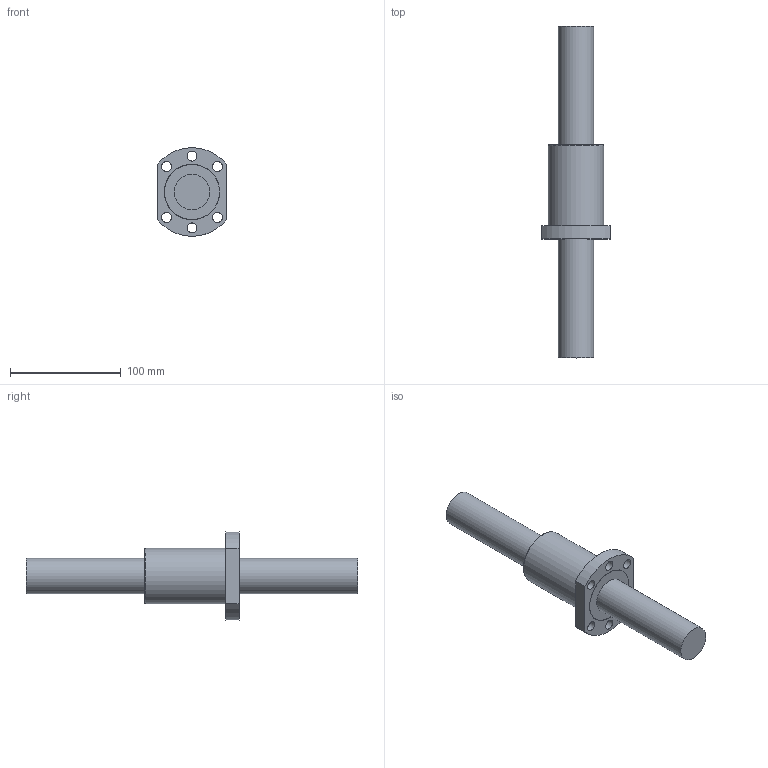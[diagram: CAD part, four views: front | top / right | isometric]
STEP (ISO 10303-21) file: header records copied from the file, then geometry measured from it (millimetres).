
FILE_DESCRIPTION(/* description */ (''),/* implementation_level */ '2;1');
FILE_NAME(/* name */ '3210.stp',/* time_stamp */ '2014-07-11T13:17:40+08:00',/* author */ (''),/* organization */ (''),/* preprocessor_version */ 'ST-DEVELOPER v11',/* originating_system */ 'SIEMENS UGS NX 6.0',/* authorisation */ '');
FILE_SCHEMA (('CONFIG_CONTROL_DESIGN'));
Length unit declared in the file: millimetre
Products named in the file (1): kcc5E5Cj7qw
Bounding box: 62 x 300 x 79.74 mm (x, y, z)
Volume: 364069.9 mm3; surface area: 69804.7 mm2
Topology: 4 solids, 4 shells, 32 faces, 75 edges, 52 vertices
Faces by surface type: cylinder 18, plane 13, torus 1
Full cylindrical faces by diameter (mm): 5 x1, 9 x6, 32 x4, 44 x2, 50 x3
Entity records: 998 total; most frequent: CARTESIAN_POINT 240, DIRECTION 146, ORIENTED_EDGE 96, EDGE_LOOP 70, AXIS2_PLACEMENT_3D 68, FACE_BOUND 64, EDGE_CURVE 48, VERTEX_POINT 42
